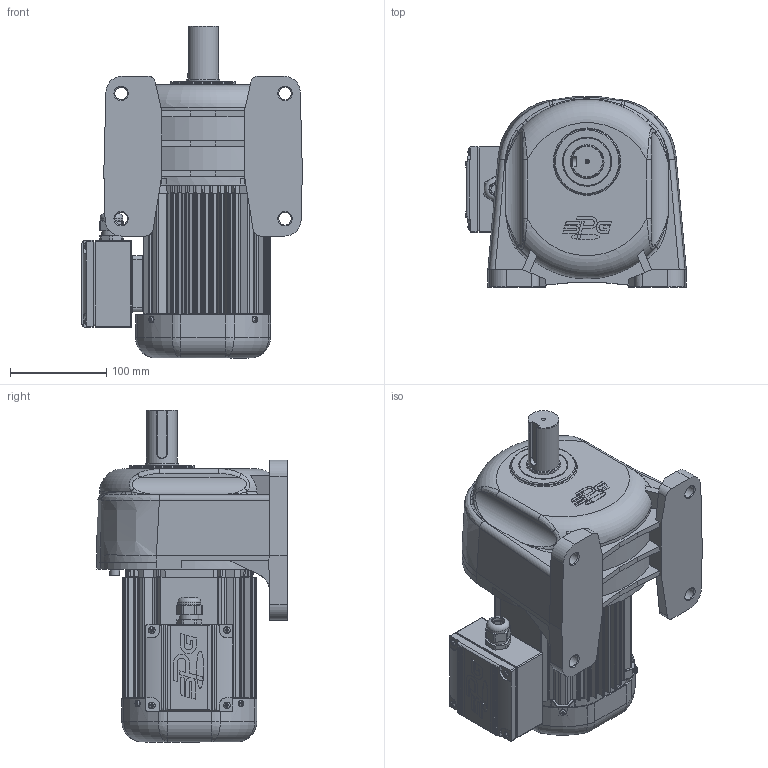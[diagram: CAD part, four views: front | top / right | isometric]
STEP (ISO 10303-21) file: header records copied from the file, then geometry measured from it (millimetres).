
FILE_DESCRIPTION(/* description */ (''),/* implementation_level */ '2;1');
FILE_NAME(/* name */ 'Z:\동력 3D 파일\PAL32-(100~200)-MA(B)040[ ]L_(3D).stp',/* time_stamp */ '2021-10-18T16:50:57+09:00',/* author */ ('jaebok'),/* organization */ (''),/* preprocessor_version */ 'ST-DEVELOPER v18.1',/* originating_system */ 'Autodesk Inventor 2022',/* authorisation */ '');
FILE_SCHEMA (('AUTOMOTIVE_DESIGN { 1 0 10303 214 3 1 1 }'));
Products named in the file (1): 부품6
Bounding box: 229 x 197.49 x 344.5 mm (x, y, z)
Volume: 2588393.4 mm3; surface area: 621670.2 mm2
Topology: 1 solids, 33 shells, 1954 faces, 5157 edges, 3306 vertices
Faces by surface type: plane 970, cylinder 662, cone 133, torus 105, bspline 60, sphere 24
Full cylindrical faces by diameter (mm): 2 x1, 3.242 x5, 3.25 x1, 3.5 x4, 3.6 x4, 4 x21, 4.917 x4, 5 x17, 5.386 x4, 6 x13, 6.8 x4, 7 x12, 8 x1, 9.5 x4, 10 x5, 12.5 x1, 13 x4, 15 x1, 18 x1, 20 x2, 21 x1, 22 x1, 23.6 x1, 25 x1, 30 x1, 31 x1, 32 x2, 34.6 x1, 35 x2, 38 x1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
Entity records: 68034 total; most frequent: CARTESIAN_POINT 17162, DIRECTION 10442, ORIENTED_EDGE 10240, EDGE_CURVE 5120, AXIS2_PLACEMENT_3D 4004, VERTEX_POINT 3306, LINE 2434, VECTOR 2434
